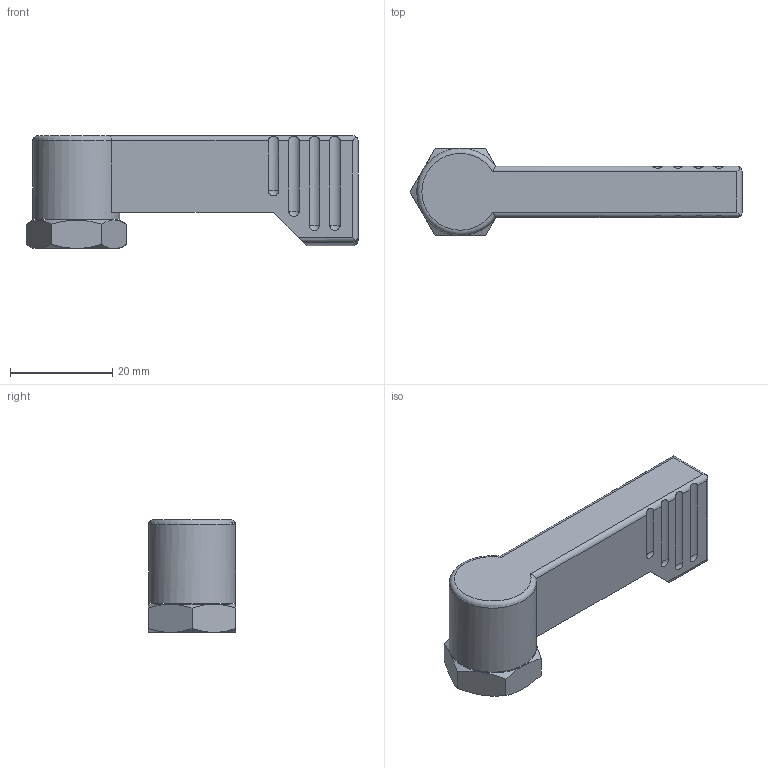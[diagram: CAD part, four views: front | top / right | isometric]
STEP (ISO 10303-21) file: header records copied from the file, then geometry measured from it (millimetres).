
FILE_DESCRIPTION(/* description */ ('STEP AP214'),/* implementation_level */ '2;1');
FILE_NAME(/* name */ 'Stop Lock GN 702-17-55-B-SW (0)',/* time_stamp */ '2024-10-01T10:00:01+02:00',/* author */ ('License CC BY-ND 4.0'),/* organization */ ('CADENAS'),/* preprocessor_version */ 'ST-DEVELOPER v19.3',/* originating_system */ 'PARTsolutions',/* authorisation */ ' ');
FILE_SCHEMA (('AUTOMOTIVE_DESIGN {1 0 10303 214 3 1 1}'));
Length unit declared in the file: millimetre
Products named in the file (3): Stop Lock GN 702-17-55-B-SW (0); Stop Lock GN 702-17-55-B-SW-2; Stop Lock GN 702-17-55-B-SW-1
Assembly tree (2 placements, depth 2):
  Stop Lock GN 702-17-55-B-SW (0)
    Stop Lock GN 702-17-55-B-SW-2
    Stop Lock GN 702-17-55-B-SW-1
Bounding box: 64.81 x 17 x 22 mm (x, y, z)
Volume: 12495.7 mm3; surface area: 5162.4 mm2
Topology: 2 solids, 2 shells, 69 faces, 160 edges, 102 vertices
Faces by surface type: cylinder 25, plane 22, cone 12, sphere 8, torus 2
Full cylindrical faces by diameter (mm): 2 x1, 6.647 x1, 9 x2, 10 x4, 17 x1
Entity records: 2053 total; most frequent: CARTESIAN_POINT 463, DIRECTION 317, ORIENTED_EDGE 300, EDGE_CURVE 150, AXIS2_PLACEMENT_3D 133, VERTEX_POINT 101, EDGE_LOOP 87, FACE_BOUND 87
